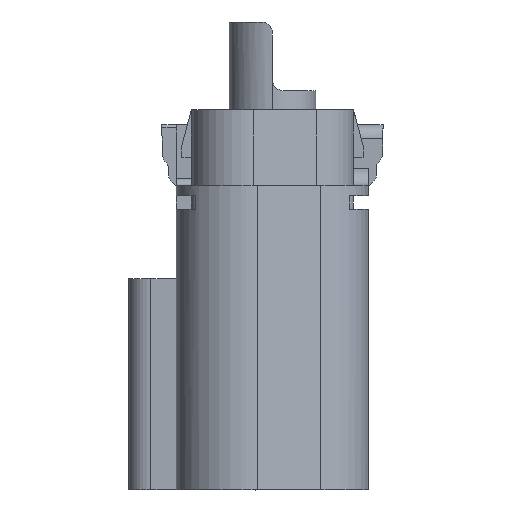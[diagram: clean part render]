
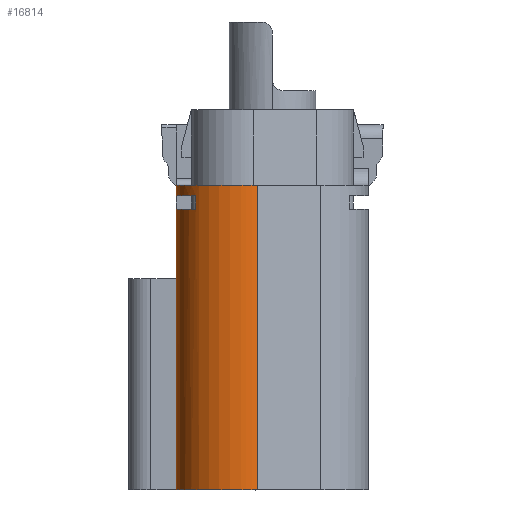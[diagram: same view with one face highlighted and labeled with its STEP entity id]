
A CAD part, left-side view. The second image highlights one B-rep face of the part: STEP entity #16814.
In plain terms, the highlighted cylindrical face has radius 4.7 mm (diameter 9.4 mm), a partial arc.
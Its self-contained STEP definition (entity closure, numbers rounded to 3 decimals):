
#2264=CARTESIAN_POINT('',(41.898,-7.951,8.142));
#2265=DIRECTION('',(0.,0.,-1.));
#2266=DIRECTION('',(-0.966,-0.259,0.));
#2267=AXIS2_PLACEMENT_3D('',#2264,#2265,#2266);
#2269=CARTESIAN_POINT('',(41.898,-7.951,8.142));
#2270=DIRECTION('',(0.,0.,-1.));
#2271=DIRECTION('',(-1.,0.,0.));
#2272=AXIS2_PLACEMENT_3D('',#2269,#2270,#2271);
#2375=DIRECTION('',(0.,0.,-1.));
#2376=VECTOR('',#2375,0.75);
#2377=CARTESIAN_POINT('',(41.898,-3.251,8.142));
#2378=LINE('',#2377,#2376);
#2391=DIRECTION('',(0.,0.,-1.));
#2392=VECTOR('',#2391,20.45);
#2393=CARTESIAN_POINT('',(41.898,-3.251,6.392));
#2394=LINE('',#2393,#2392);
#2586=DIRECTION('',(0.,0.,1.));
#2587=VECTOR('',#2586,1.);
#2588=CARTESIAN_POINT('',(38.554,-4.648,6.392));
#2589=LINE('',#2588,#2587);
#2603=CARTESIAN_POINT('',(41.898,-7.951,
-14.058));
#2604=DIRECTION('',(0.,0.,1.));
#2605=DIRECTION('',(0.,1.,0.));
#2606=AXIS2_PLACEMENT_3D('',#2603,#2604,#2605);
#2608=CARTESIAN_POINT('',(41.898,-7.951,
-14.058));
#2609=DIRECTION('',(0.,0.,1.));
#2610=DIRECTION('',(-1.,0.,0.));
#2611=AXIS2_PLACEMENT_3D('',#2608,#2609,#2610);
#6358=DIRECTION('',(0.,0.,1.));
#6359=VECTOR('',#6358,22.2);
#6360=CARTESIAN_POINT('',(37.358,-9.168,
-14.058));
#6361=LINE('',#6360,#6359);
#6451=CARTESIAN_POINT('',(41.898,-7.951,6.392));
#6452=DIRECTION('',(0.,0.,-1.));
#6453=DIRECTION('',(-0.711,0.703,0.));
#6454=AXIS2_PLACEMENT_3D('',#6451,#6452,#6453);
#6472=CARTESIAN_POINT('',(41.898,-7.951,7.392));
#6473=DIRECTION('',(0.,0.,1.));
#6474=DIRECTION('',(0.,1.,0.));
#6475=AXIS2_PLACEMENT_3D('',#6472,#6473,#6474);
#13006=CARTESIAN_POINT('',(37.358,-9.168,
8.142));
#13007=VERTEX_POINT('',#13006);
#13008=CARTESIAN_POINT('',(37.198,-7.951,
8.142));
#13009=VERTEX_POINT('',#13008);
#13010=CARTESIAN_POINT('',(41.898,-3.251,
8.142));
#13011=VERTEX_POINT('',#13010);
#13064=CARTESIAN_POINT('',(41.898,-3.251,
7.392));
#13065=VERTEX_POINT('',#13064);
#13070=CARTESIAN_POINT('',(41.898,-3.251,
6.392));
#13071=VERTEX_POINT('',#13070);
#13072=CARTESIAN_POINT('',(41.898,-3.251,
-14.058));
#13073=VERTEX_POINT('',#13072);
#13138=CARTESIAN_POINT('',(37.198,-7.951,
-14.058));
#13139=VERTEX_POINT('',#13138);
#13140=CARTESIAN_POINT('',(38.554,-4.648,
6.392));
#13141=VERTEX_POINT('',#13140);
#13142=CARTESIAN_POINT('',(38.554,-4.648,
7.392));
#13143=VERTEX_POINT('',#13142);
#13144=CARTESIAN_POINT('',(37.358,-9.168,
-14.058));
#13145=VERTEX_POINT('',#13144);
#16791=CARTESIAN_POINT('',(41.898,-7.951,
-8.158));
#16792=DIRECTION('',(0.,0.,1.));
#16793=DIRECTION('',(-1.,0.,0.));
#16794=AXIS2_PLACEMENT_3D('',#16791,#16792,#16793);
#16795=CYLINDRICAL_SURFACE('',#16794,4.7);
#16797=ORIENTED_EDGE('',*,*,#16796,.F.);
#16798=ORIENTED_EDGE('',*,*,#16523,.F.);
#16800=ORIENTED_EDGE('',*,*,#16799,.F.);
#16802=ORIENTED_EDGE('',*,*,#16801,.T.);
#16804=ORIENTED_EDGE('',*,*,#16803,.F.);
#16805=ORIENTED_EDGE('',*,*,#16515,.F.);
#16806=ORIENTED_EDGE('',*,*,#16417,.F.);
#16807=ORIENTED_EDGE('',*,*,#16415,.F.);
#16809=ORIENTED_EDGE('',*,*,#16808,.F.);
#16811=ORIENTED_EDGE('',*,*,#16810,.F.);
#16812=EDGE_LOOP('',(#16797,#16798,#16800,#16802,#16804,#16805,#16806,#16807,
#16809,#16811));
#16813=FACE_OUTER_BOUND('',#16812,.F.);
#16814=ADVANCED_FACE('',(#16813),#16795,.T.);
#2268=CIRCLE('',#2267,4.7);
#2273=CIRCLE('',#2272,4.7);
#2607=CIRCLE('',#2606,4.7);
#2612=CIRCLE('',#2611,4.7);
#6455=CIRCLE('',#6454,4.7);
#6476=CIRCLE('',#6475,4.7);
#16415=EDGE_CURVE('',#13007,#13009,#2268,.T.);
#16417=EDGE_CURVE('',#13009,#13011,#2273,.T.);
#16515=EDGE_CURVE('',#13011,#13065,#2378,.T.);
#16523=EDGE_CURVE('',#13071,#13073,#2394,.T.);
#16796=EDGE_CURVE('',#13073,#13139,#2607,.T.);
#16799=EDGE_CURVE('',#13141,#13071,#6455,.T.);
#16801=EDGE_CURVE('',#13141,#13143,#2589,.T.);
#16803=EDGE_CURVE('',#13065,#13143,#6476,.T.);
#16808=EDGE_CURVE('',#13145,#13007,#6361,.T.);
#16810=EDGE_CURVE('',#13139,#13145,#2612,.T.);
